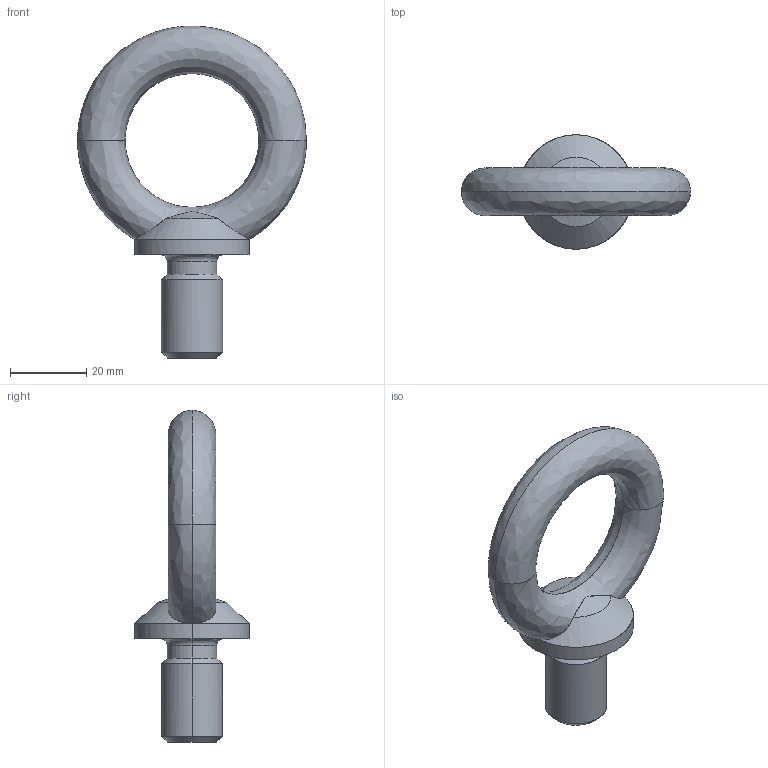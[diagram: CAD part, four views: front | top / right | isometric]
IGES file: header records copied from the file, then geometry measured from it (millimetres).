
Global section: file name: E:\UnigraphicsGraphicData\MISUMI_PRESS-PARTS\IGES\3d_chi16_03531_r00.igs; native system: NX V5.0; preprocessor: UGS NX IGES V5.0; author: MISUMI; date: 20110105.160218; units: millimetre
Bounding box: 60 x 30 x 87 mm (x, y, z)
Surface area: 8152.1 mm2 (no closed solid volume)
Topology: 0 solids, 0 shells, 22 faces, 142 edges, 142 vertices
Faces by surface type: bspline 22
